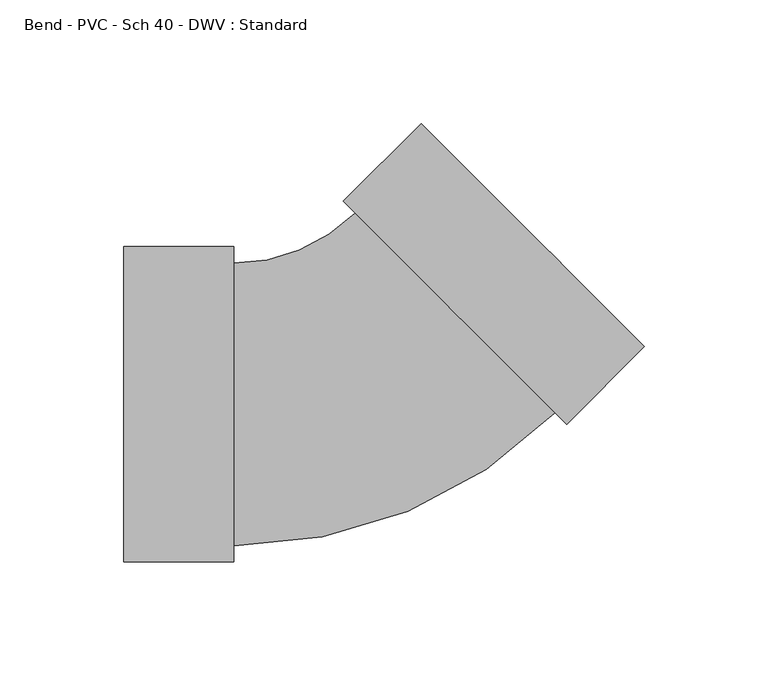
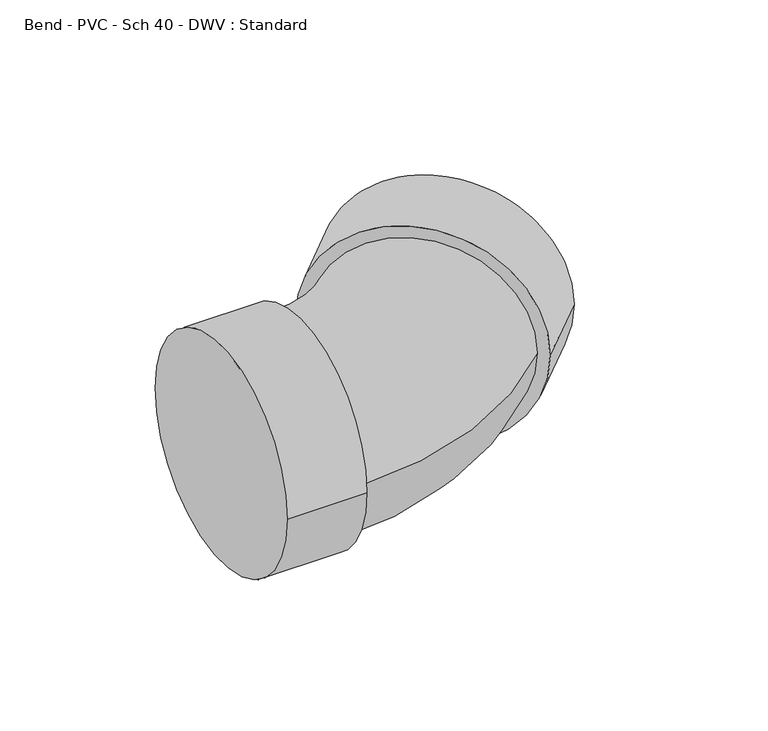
"""IFC4 building model written with IfcOpenShell, lengths in millimetres: pipe fitting geometry, Bend - PVC - Sch 40 - DWV : Standard."""

import ifcopenshell
import ifcopenshell.guid

model = None  # the IFC model being written
_history = None  # IfcOwnerHistory: only IFC2X3 demands one
_inside = {}  # id of a spatial element -> (the spatial element, [elements in it])
_under = {}  # id of a project, library or spatial element -> (it, [spatial elements below it])
_declared = {}  # id of a project -> (the project, [libraries it declares])
_typed = {}  # id of a type object -> (the type object, [elements of that type])
_made_of = {}  # id of a material, layer set ... -> (it, [elements and type objects made of it])


def new_model(schema):
    """Start an empty IFC model of exactly this schema.

    Asked for "IFC4X3", IfcOpenShell would pick the latest addendum, in which some entities
    have other attributes; the version numbers below select the first issue.
    IFC2X3 requires an IfcOwnerHistory on every rooted entity: one is made here for all.
    """
    global model, _history
    if schema == "IFC4X3":
        model = ifcopenshell.file(schema_version=(4, 3, 0, 0))
    else:
        model = ifcopenshell.file(schema=schema)
    _inside.clear()
    _under.clear()
    _declared.clear()
    _typed.clear()
    _made_of.clear()
    _history = None
    if model.schema == "IFC2X3":
        org = make("IfcOrganization", Name="unknown")
        user = make(
            "IfcPersonAndOrganization",
            ThePerson=make("IfcPerson", FamilyName="unknown"),
            TheOrganization=org,
        )
        app = make(
            "IfcApplication",
            ApplicationDeveloper=org,
            Version="unknown",
            ApplicationFullName="unknown",
            ApplicationIdentifier="unknown",
        )
        _history = make(
            "IfcOwnerHistory",
            OwningUser=user,
            OwningApplication=app,
            ChangeAction="ADDED",
            CreationDate=0,
        )
    return model


def make(cls, **values):
    """One entity of the class cls with the attributes given. An attribute that is None is left unset."""
    return model.create_entity(
        cls, **{name: value for name, value in values.items() if value is not None}
    )


def rooted(cls, **values):
    """An entity with a GlobalId (a new one), such as an element, a storey or a relation."""
    return make(cls, GlobalId=ifcopenshell.guid.new(), OwnerHistory=_history, **values)


def si_unit(unit_type, name, prefix=None):
    """IfcSIUnit, for example si_unit("LENGTHUNIT", "METRE", prefix="MILLI")."""
    return make("IfcSIUnit", UnitType=unit_type, Prefix=prefix, Name=name)


def assignment(units):
    """IfcUnitAssignment: the units of a project."""
    return None if units is None else make("IfcUnitAssignment", Units=units)


def point(xyz):
    """IfcCartesianPoint."""
    return None if xyz is None else make("IfcCartesianPoint", Coordinates=xyz)


def direction(xyz):
    """IfcDirection."""
    return None if xyz is None else make("IfcDirection", DirectionRatios=xyz)


def frame(location, z_axis=None, x_axis=None):
    """IfcAxis2Placement3D, a coordinate frame: its origin and axes. An axis left out is left unset."""
    return make(
        "IfcAxis2Placement3D",
        Location=point(location),
        Axis=direction(z_axis),
        RefDirection=direction(x_axis),
    )


def origin():
    """The frame at (0, 0, 0) with its axes left unset."""
    return frame((0.0, 0.0, 0.0))


def place(relative_to, where):
    """IfcLocalPlacement: puts the frame where relative to a parent placement (None: the world)."""
    return make(
        "IfcLocalPlacement", PlacementRelTo=relative_to, RelativePlacement=where
    )


def context(
    kind, dimensions, precision=None, world=None, true_north=None, identifier=None
):
    """IfcGeometricRepresentationContext, for example the 3D "Model" context."""
    return make(
        "IfcGeometricRepresentationContext",
        ContextIdentifier=identifier,
        ContextType=kind,
        CoordinateSpaceDimension=dimensions,
        Precision=precision,
        WorldCoordinateSystem=world,
        TrueNorth=true_north,
    )


def project(units=None, contexts=None):
    """IfcProject with its units and contexts."""
    return rooted(
        "IfcProject",
        Name="project",
        RepresentationContexts=contexts,
        UnitsInContext=assignment(units),
    )


def spatial(cls, under=None, at=None, **own):
    """A site, building, storey or space (cls), placed at a placement, below another one or the project."""
    s = rooted(cls, ObjectPlacement=at, **own)
    if under is not None:
        _under.setdefault(under.id(), (under, []))[1].append(s)
    return s


def circle_curve(where, radius):
    """IfcCircle in the frame where."""
    return make("IfcCircle", Position=where, Radius=radius)


def ellipse_curve(where, semi_axis1, semi_axis2):
    """IfcEllipse in the frame where."""
    return make(
        "IfcEllipse", Position=where, SemiAxis1=semi_axis1, SemiAxis2=semi_axis2
    )


def trimmed(basis, trim1, trim2, sense, master):
    """IfcTrimmedCurve: the piece of a basis curve between two trims."""
    return make(
        "IfcTrimmedCurve",
        BasisCurve=basis,
        Trim1=trim1,
        Trim2=trim2,
        SenseAgreement=sense,
        MasterRepresentation=master,
    )


def shape(context_of_items, identifier, shape_type, items):
    """IfcShapeRepresentation: the items that make up one representation, for example the "Body"."""
    return make(
        "IfcShapeRepresentation",
        ContextOfItems=context_of_items,
        RepresentationIdentifier=identifier,
        RepresentationType=shape_type,
        Items=items,
    )


def source(mapping_origin, context_of_items, identifier, shape_type, items):
    """IfcRepresentationMap: a shape defined once, which mapped items show again and again."""
    return make(
        "IfcRepresentationMap",
        MappingOrigin=mapping_origin,
        MappedRepresentation=shape(context_of_items, identifier, shape_type, items),
    )


def transform(
    local_origin,
    x_axis=None,
    y_axis=None,
    z_axis=None,
    scale=None,
    scale2=None,
    scale3=None,
    uniform=True,
):
    """IfcCartesianTransformationOperator3D, or its non-uniform kind. x_axis, y_axis, z_axis: its Axis1, 2, 3."""
    if uniform:
        return make(
            "IfcCartesianTransformationOperator3D",
            Axis1=direction(x_axis),
            Axis2=direction(y_axis),
            LocalOrigin=point(local_origin),
            Scale=scale,
            Axis3=direction(z_axis),
        )
    return make(
        "IfcCartesianTransformationOperator3DnonUniform",
        Axis1=direction(x_axis),
        Axis2=direction(y_axis),
        LocalOrigin=point(local_origin),
        Scale=scale,
        Axis3=direction(z_axis),
        Scale2=scale2,
        Scale3=scale3,
    )


def mapped(mapping_source, mapping_target):
    """IfcMappedItem: shows the shape of a source again, moved by a transform."""
    return make(
        "IfcMappedItem", MappingSource=mapping_source, MappingTarget=mapping_target
    )


def made_of(thing, what):
    """Note that an element or type object is made of a material, layer set ...; save() writes the relation."""
    if what is not None:
        _made_of.setdefault(what.id(), (what, []))[1].append(thing)
    return thing


def element(
    cls,
    number,
    at=None,
    inside=None,
    cuts=None,
    type_object=None,
    material=None,
    context=None,
    identifier="Body",
    shape_type=None,
    held_by="IfcProductDefinitionShape",
    body=None,
    shapes=None,
    **own,
):
    """One element of the class cls, such as IfcWall. Its Tag is "e" and its number.

    at: its placement. inside: the storey or other place that contains it. cuts: it is an
    opening in that element (IfcRelVoidsElement). A single representation is given by context,
    identifier, shape_type and body (its items); several are given by shapes. held_by: the class
    of the entity that holds the representations. save() writes the other relations.
    """
    e = rooted(cls, Tag="e%d" % number, ObjectPlacement=at, **own)
    if body is not None:
        shapes = [shape(context, identifier, shape_type, body)]
    if shapes is not None:
        e.Representation = make(held_by, Representations=shapes)
    if inside is not None:
        _inside.setdefault(inside.id(), (inside, []))[1].append(e)
    if cuts is not None:
        rooted(
            "IfcRelVoidsElement", RelatingBuildingElement=cuts, RelatedOpeningElement=e
        )
    if type_object is not None:
        _typed.setdefault(type_object.id(), (type_object, []))[1].append(e)
    return made_of(e, material)


def aggregate(whole, parts):
    """IfcRelAggregates: a whole, such as a stair, and the parts it consists of."""
    return rooted("IfcRelAggregates", RelatingObject=whole, RelatedObjects=parts)


def save(model, path):
    """Write the relations noted so far, then the file.

    IfcRelAggregates (storeys below a building ...), IfcRelContainedInSpatialStructure (elements
    in a storey), IfcRelDefinesByType, IfcRelAssociatesMaterial and IfcRelDeclares: one each for
    every whole, place, type object, material and project.
    """
    for whole, parts in _under.values():
        aggregate(whole, parts)
    for where, things in _inside.values():
        rooted(
            "IfcRelContainedInSpatialStructure",
            RelatedElements=things,
            RelatingStructure=where,
        )
    for kind, things in _typed.values():
        rooted("IfcRelDefinesByType", RelatedObjects=things, RelatingType=kind)
    for what, things in _made_of.values():
        rooted("IfcRelAssociatesMaterial", RelatedObjects=things, RelatingMaterial=what)
    for by, libraries in _declared.values():
        rooted("IfcRelDeclares", RelatingContext=by, RelatedDefinitions=libraries)
    model.write(path)


def plane_surface(at):
    """IfcPlane: the flat surface through the origin of the frame at, square to its z axis."""
    return make("IfcPlane", Position=at)


def cylinder_surface(at, radius):
    """IfcCylindricalSurface: all points at the distance radius from the z axis of the frame at."""
    return make("IfcCylindricalSurface", Position=at, Radius=radius)


def revolved_surface(curve, axis_point, axis_direction):
    """IfcSurfaceOfRevolution: the curve turned about the line through axis_point along axis_direction."""
    return make(
        "IfcSurfaceOfRevolution",
        SweptCurve=make("IfcArbitraryOpenProfileDef", ProfileType="CURVE", Curve=curve),
        AxisPosition=make("IfcAxis1Placement", Location=point(axis_point), Axis=direction(axis_direction)),
    )


def advanced_brep(points, edges, surfaces, faces):
    """IfcAdvancedBrep: a solid bounded by faces that lie on surfaces and meet in shared edges.

    An edge is (start, end): straight between two places in points (the first is 0);
    or (start, end, curve); or (start, end, curve, False) where it runs against its curve.
    A face is (place in surfaces, loops), or (place, loops, False) where it looks against
    its surface's normal. A loop lists edges by number (the first is 1), with a minus sign
    where the edge is run from its end to its start. The first loop is the outer one.
    """
    corners = [point(p) for p in points]
    vertices = [make("IfcVertexPoint", VertexGeometry=c) for c in corners]
    made = []
    for start, end, *more in edges:
        made.append(
            make(
                "IfcEdgeCurve",
                EdgeStart=vertices[start],
                EdgeEnd=vertices[end],
                EdgeGeometry=more[0] if more else make("IfcPolyline", Points=[corners[start], corners[end]]),
                SameSense=more[1] if len(more) > 1 else True,
            )
        )
    hull = []
    for where, loops, *sense in faces:
        bounds = []
        for j, loop in enumerate(loops):
            ring = [make("IfcOrientedEdge", EdgeElement=made[abs(k) - 1], Orientation=k > 0) for k in loop]
            bounds.append(
                make(
                    "IfcFaceOuterBound" if j == 0 else "IfcFaceBound",
                    Bound=make("IfcEdgeLoop", EdgeList=ring),
                    Orientation=True,
                )
            )
        hull.append(make("IfcAdvancedFace", Bounds=bounds, FaceSurface=surfaces[where], SameSense=sense[0] if sense else True))
    return make("IfcAdvancedBrep", Outer=make("IfcClosedShell", CfsFaces=hull))


def bend_pvc_sch_40_dwv_standard_9234eb67(model_context):
    return source(origin(), model_context, "Body", "AdvancedBrep", [
        advanced_brep(
        [(-96.8502, -63.754, 0.0), (-96.8502, 63.754, 0.0), (-52.4002, -63.754, 0.0), (-52.4002, 63.754, 0.0), (-52.4002, -57.15, 0.0), (-52.4002, 57.15, 0.0), (-3.3601007, 77.4636249, 0.0), (77.4637537, -3.3571308, 0.0), (82.1335764, -8.0267745, 0.0), (-8.0299234, 82.1332686, 0.0), (113.5638703, 23.4047244, 0.0), (23.4003705, 113.5647675, 0.0)],
        [
            (0, 1, circle_curve(frame((-96.8502, 0.0, 0.0), z_axis=(-1.0, 0.0, 0.0), x_axis=(0.0, 1.0, 0.0)), 63.754)),
            (1, 0, circle_curve(frame((-96.8502, 0.0, 0.0), z_axis=(-1.0, 0.0, 0.0), x_axis=(0.0, 1.0, 0.0)), 63.754)),
            (2, 3, circle_curve(frame((-52.4002, 0.0, 0.0), z_axis=(1.0, 0.0, 0.0), x_axis=(0.0, 1.0, 0.0)), 63.754)),
            (3, 2, circle_curve(frame((-52.4002, 0.0, 0.0), z_axis=(1.0, 0.0, 0.0), x_axis=(0.0, 1.0, 0.0)), 63.754)),
            (4, 5, circle_curve(frame((-52.4002, 0.0, 0.0), z_axis=(-1.0, 0.0, 0.0), x_axis=(0.0, 1.0, 0.0)), 57.15)),
            (5, 4, circle_curve(frame((-52.4002, 0.0, 0.0), z_axis=(-1.0, 0.0, 0.0), x_axis=(0.0, 1.0, 0.0)), 57.15)),
            (0, 2),
            (3, 1),
            (6, 5, circle_curve(frame((-52.4002, 126.501844, 0.0), z_axis=(0.0, 0.0, -1.0), x_axis=(0.0, -1.0, 0.0)), 69.351844)),
            (4, 7, circle_curve(frame((-52.4002, 126.501844, 0.0), z_axis=(0.0, 0.0, 1.0), x_axis=(0.0, -1.0, 0.0)), 183.651844)),
            (7, 6, circle_curve(frame((37.0518265, 37.053247, 0.0), z_axis=(-0.7070932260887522, -0.7071203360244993, 0.0), x_axis=(-0.7071203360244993, 0.7070932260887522, 0.0)), 57.15)),
            (6, 7, circle_curve(frame((37.0518265, 37.053247, 0.0), z_axis=(-0.7070932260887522, -0.7071203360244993, 0.0), x_axis=(-0.7071203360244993, 0.7070932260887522, 0.0)), 57.15)),
            (8, 9, circle_curve(frame((37.0518265, 37.053247, 0.0), z_axis=(-0.7070932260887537, -0.7071203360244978, 0.0), x_axis=(-0.7071203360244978, 0.7070932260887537, 0.0)), 63.754)),
            (9, 8, circle_curve(frame((37.0518265, 37.053247, 0.0), z_axis=(-0.7070932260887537, -0.7071203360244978, 0.0), x_axis=(-0.7071203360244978, 0.7070932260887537, 0.0)), 63.754)),
            (10, 11, circle_curve(frame((68.4821204, 68.484746, 0.0), z_axis=(0.7070932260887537, 0.7071203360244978, 0.0), x_axis=(-0.7071203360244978, 0.7070932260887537, 0.0)), 63.754)),
            (11, 10, circle_curve(frame((68.4821204, 68.484746, 0.0), z_axis=(0.7070932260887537, 0.7071203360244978, 0.0), x_axis=(-0.7071203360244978, 0.7070932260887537, 0.0)), 63.754)),
            (8, 10),
            (11, 9),
        ],
        [
            plane_surface(frame((-96.8502, 0.0, 0.0), z_axis=(-1.0, 0.0, 0.0), x_axis=(0.0, 0.0, 1.0))),
            plane_surface(frame((-52.4002, 0.0, 0.0), z_axis=(1.0, 0.0, 0.0), x_axis=(0.0, 0.0, 1.0))),
            cylinder_surface(frame((-96.8502, 0.0, 0.0), z_axis=(-1.0, 0.0, 0.0), x_axis=(0.0, 1.0, 0.0)), 63.754),
            revolved_surface(trimmed(ellipse_curve(frame((-52.4002, 0.0, 0.0), z_axis=(-1.0, 0.0, 0.0), x_axis=(0.0, 1.0, 0.0)), 57.15, 57.15), [point((-52.4002, -57.15, 0.0))], [point((-52.4002, 57.15, 0.0))], True, "CARTESIAN"), (-52.4002, 126.501844, 0.0), (0.0, 0.0, 1.0)),
            revolved_surface(trimmed(ellipse_curve(frame((-52.4002, 0.0, 0.0), z_axis=(-1.0, 0.0, 0.0), x_axis=(0.0, 1.0, 0.0)), 57.15, 57.15), [point((-52.4002, 57.15, 0.0))], [point((-52.4002, -57.15, 0.0))], True, "CARTESIAN"), (-52.4002, 126.501844, 0.0), (0.0, 0.0, 1.0)),
            plane_surface(frame((37.0518265, 37.053247, 0.0), z_axis=(-0.7070932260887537, -0.7071203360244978, 0.0), x_axis=(0.0, 0.0, 1.0))),
            plane_surface(frame((68.4821204, 68.484746, 0.0), z_axis=(0.7070932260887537, 0.7071203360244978, 0.0), x_axis=(0.0, 0.0, 1.0))),
            cylinder_surface(frame((37.0518265, 37.053247, 0.0), z_axis=(-0.7070932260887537, -0.7071203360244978, 0.0), x_axis=(-0.7071203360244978, 0.7070932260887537, 0.0)), 63.754),
        ],
        [
            (0, [[1, 2]]),
            (1, [[3, 4], [5, 6]]),
            (2, [[-1, 7, -4, 8]]),
            (2, [[-2, -8, -3, -7]]),
            (3, [[9, -5, 10, 11]]),
            (4, [[-9, 12, -10, -6]]),
            (5, [[13, 14], [-11, -12]]),
            (6, [[15, 16]]),
            (7, [[-13, 17, -16, 18]]),
            (7, [[-14, -18, -15, -17]]),
        ],
    ),
    ])


if __name__ == "__main__":
    model = new_model("IFC4")
    model_context = context("Model", 3, world=origin())
    ifc_project = project(units=[si_unit("LENGTHUNIT", "METRE", prefix="MILLI")], contexts=[model_context])
    site = spatial("IfcSite", under=ifc_project)
    building = spatial("IfcBuilding", under=site)
    placement = place(None, origin())
    bend_pvc_sch_40_dwv_standard_shape = bend_pvc_sch_40_dwv_standard_9234eb67(model_context)
    element("IfcPipeFitting", 1, ObjectType="Bend - PVC - Sch 40 - DWV : Standard", at=placement, inside=building, context=model_context, shape_type="MappedRepresentation", body=[
        mapped(bend_pvc_sch_40_dwv_standard_shape, transform((0.0, 0.0, 0.0), x_axis=(1.0, 0.0, 0.0), y_axis=(0.0, 1.0, 0.0), z_axis=(0.0, 0.0, 1.0))),
    ])
    save(model, "model.ifc")
